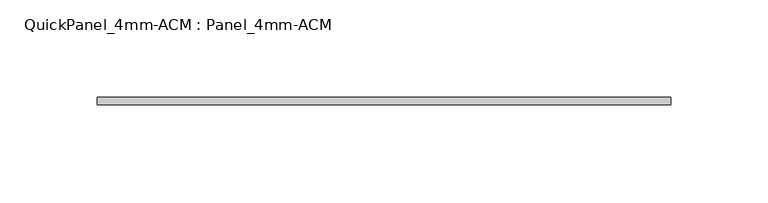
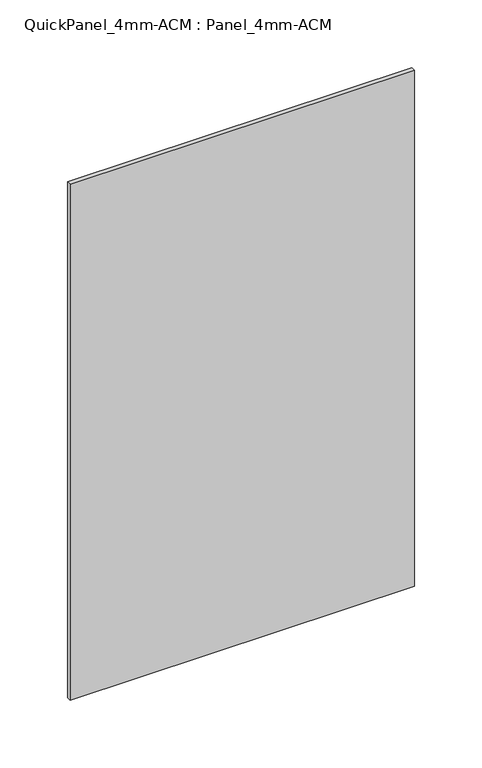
"""IFC4 building model written with IfcOpenShell, lengths in millimetres: plate geometry, QuickPanel_4mm-ACM : Panel_4mm-ACM."""

from ifc_helpers import new_model, si_unit, origin, origin_with_axes, place, context, project, spatial, polyline, outline, extrude, source, transform, mapped, element, save


def quickpanel_4mm_acm_panel_4mm_acm_ccc70f18(model_context):
    return source(origin(), model_context, "Body", "SweptSolid", [
        extrude(outline(polyline([(-146.9553535, -6.096), (146.9553535, -6.096), (146.9553535, -9.906), (-146.9553535, -9.906), (-146.9553535, -6.096)])), origin_with_axes(), (0.0, 0.0, 1.0), 465.6618949),
    ])


if __name__ == "__main__":
    model = new_model("IFC4")
    model_context = context("Model", 3, world=origin())
    ifc_project = project(units=[si_unit("LENGTHUNIT", "METRE", prefix="MILLI")], contexts=[model_context])
    site = spatial("IfcSite", under=ifc_project)
    building = spatial("IfcBuilding", under=site)
    placement = place(None, origin())
    quickpanel_4mm_acm_panel_4mm_acm_shape = quickpanel_4mm_acm_panel_4mm_acm_ccc70f18(model_context)
    element("IfcPlate", 1, ObjectType="QuickPanel_4mm-ACM : Panel_4mm-ACM", at=placement, inside=building, context=model_context, shape_type="MappedRepresentation", body=[
        mapped(quickpanel_4mm_acm_panel_4mm_acm_shape, transform((0.0, 0.0, 0.0), x_axis=(1.0, 0.0, 0.0), y_axis=(0.0, 1.0, 0.0), z_axis=(0.0, 0.0, 1.0))),
    ])
    save(model, "model.ifc")
